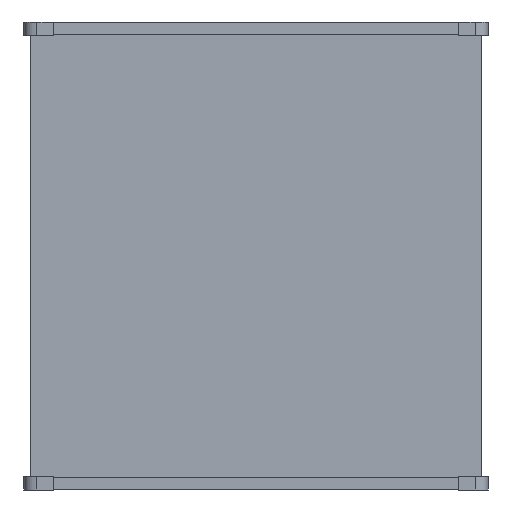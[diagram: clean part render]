
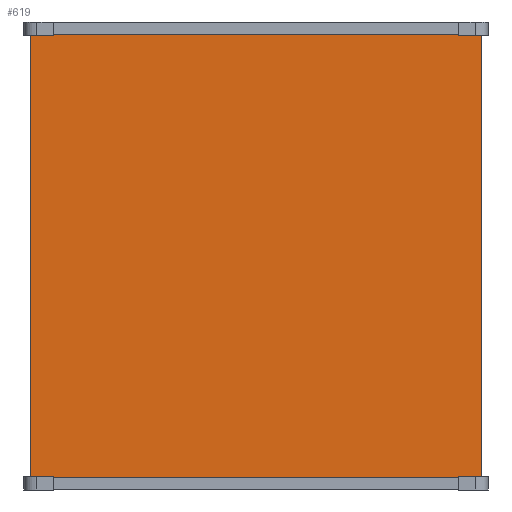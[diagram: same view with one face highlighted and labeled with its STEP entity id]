
A CAD part, front view. The second image highlights one B-rep face of the part: STEP entity #619.
In plain terms, the highlighted planar face has unit normal (0, -1, 0).
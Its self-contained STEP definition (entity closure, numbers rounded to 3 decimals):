
#619=ADVANCED_FACE('',(#1328),#1329,.F.);
#1328=FACE_OUTER_BOUND('',#2131,.T.);
#1329=PLANE('',#2132);
#2131=EDGE_LOOP('',(#4064,#4065,#4066,#4067,#4068,#4069,#4070,#4071,#4072,#4073,#4074,#4075));
#2132=AXIS2_PLACEMENT_3D('',#4076,#4077,#4078);
#4064=ORIENTED_EDGE('',*,*,#5642,.T.);
#4065=ORIENTED_EDGE('',*,*,#5615,.T.);
#4066=ORIENTED_EDGE('',*,*,#5669,.T.);
#4067=ORIENTED_EDGE('',*,*,#5670,.T.);
#4068=ORIENTED_EDGE('',*,*,#5671,.T.);
#4069=ORIENTED_EDGE('',*,*,#5672,.T.);
#4070=ORIENTED_EDGE('',*,*,#5673,.T.);
#4071=ORIENTED_EDGE('',*,*,#5674,.T.);
#4072=ORIENTED_EDGE('',*,*,#5675,.F.);
#4073=ORIENTED_EDGE('',*,*,#5676,.T.);
#4074=ORIENTED_EDGE('',*,*,#5677,.T.);
#4075=ORIENTED_EDGE('',*,*,#5666,.T.);
#4076=CARTESIAN_POINT('',(0.,-154.96,-322.5));
#4077=DIRECTION('',(0.,1.0,0.0));
#4078=DIRECTION('',(0.,0.,1.0));
#5615=EDGE_CURVE('',#6999,#7000,#7001,.T.);
#5642=EDGE_CURVE('',#7039,#6999,#7040,.T.);
#5666=EDGE_CURVE('',#7075,#7039,#7076,.T.);
#5669=EDGE_CURVE('',#7000,#7079,#7080,.T.);
#5670=EDGE_CURVE('',#7079,#7081,#7082,.T.);
#5671=EDGE_CURVE('',#7081,#7083,#7084,.T.);
#5672=EDGE_CURVE('',#7083,#7085,#7086,.T.);
#5673=EDGE_CURVE('',#7085,#7087,#7088,.T.);
#5674=EDGE_CURVE('',#7087,#7089,#7090,.T.);
#5675=EDGE_CURVE('',#7091,#7089,#7092,.T.);
#5676=EDGE_CURVE('',#7091,#7093,#7094,.T.);
#5677=EDGE_CURVE('',#7093,#7075,#7095,.T.);
#6999=VERTEX_POINT('',#8749);
#7000=VERTEX_POINT('',#8750);
#7001=LINE('',#8751,#8752);
#7039=VERTEX_POINT('',#8804);
#7040=LINE('',#8805,#8806);
#7075=VERTEX_POINT('',#8858);
#7076=LINE('',#8859,#8860);
#7079=VERTEX_POINT('',#8864);
#7080=LINE('',#8865,#8866);
#7081=VERTEX_POINT('',#8867);
#7082=LINE('',#8868,#8869);
#7083=VERTEX_POINT('',#8870);
#7084=LINE('',#8871,#8872);
#7085=VERTEX_POINT('',#8873);
#7086=LINE('',#8874,#8875);
#7087=VERTEX_POINT('',#8876);
#7088=LINE('',#8877,#8878);
#7089=VERTEX_POINT('',#8879);
#7090=LINE('',#8880,#8881);
#7091=VERTEX_POINT('',#8882);
#7092=LINE('',#8883,#8884);
#7093=VERTEX_POINT('',#8885);
#7094=LINE('',#8886,#8887);
#7095=LINE('',#8888,#8889);
#8749=CARTESIAN_POINT('',(280.0,-154.96,-627.875));
#8750=CARTESIAN_POINT('',(312.0,-154.96,-627.875));
#8751=CARTESIAN_POINT('',(150.25,-154.96,-627.875));
#8752=VECTOR('',#10479,1.0);
#8804=CARTESIAN_POINT('',(280.0,-154.96,-628.875));
#8805=CARTESIAN_POINT('',(280.0,-154.96,-479.719));
#8806=VECTOR('',#10512,1.0);
#8858=CARTESIAN_POINT('',(-280.0,-154.96,-628.875));
#8859=CARTESIAN_POINT('',(0.,-154.96,-628.875));
#8860=VECTOR('',#10530,1.0);
#8864=CARTESIAN_POINT('',(312.0,-154.96,-17.125));
#8865=CARTESIAN_POINT('',(312.0,-154.96,-322.5));
#8866=VECTOR('',#10532,1.0);
#8867=CARTESIAN_POINT('',(280.0,-154.96,-17.125));
#8868=CARTESIAN_POINT('',(150.25,-154.96,-17.125));
#8869=VECTOR('',#10533,1.0);
#8870=CARTESIAN_POINT('',(280.0,-154.96,-16.125));
#8871=CARTESIAN_POINT('',(280.0,-154.96,-165.281));
#8872=VECTOR('',#10534,1.0);
#8873=CARTESIAN_POINT('',(-280.0,-154.96,-16.125));
#8874=CARTESIAN_POINT('',(0.,-154.96,-16.125));
#8875=VECTOR('',#10535,1.0);
#8876=CARTESIAN_POINT('',(-280.0,-154.96,-17.125));
#8877=CARTESIAN_POINT('',(-280.0,-154.96,-165.281));
#8878=VECTOR('',#10536,1.0);
#8879=CARTESIAN_POINT('',(-312.0,-154.96,-17.125));
#8880=CARTESIAN_POINT('',(-150.25,-154.96,-17.125));
#8881=VECTOR('',#10537,1.0);
#8882=CARTESIAN_POINT('',(-312.0,-154.96,-627.875));
#8883=CARTESIAN_POINT('',(-312.0,-154.96,-322.5));
#8884=VECTOR('',#10538,1.0);
#8885=CARTESIAN_POINT('',(-280.0,-154.96,-627.875));
#8886=CARTESIAN_POINT('',(-150.25,-154.96,-627.875));
#8887=VECTOR('',#10539,1.0);
#8888=CARTESIAN_POINT('',(-280.0,-154.96,-479.719));
#8889=VECTOR('',#10540,1.0);
#10479=DIRECTION('',(1.0,0.,0.0));
#10512=DIRECTION('',(0.0,0.0,1.0));
#10530=DIRECTION('',(1.0,0.,0.));
#10532=DIRECTION('',(0.,0.,1.0));
#10533=DIRECTION('',(-1.0,0.,0.0));
#10534=DIRECTION('',(0.0,0.0,1.0));
#10535=DIRECTION('',(-1.0,0.,0.));
#10536=DIRECTION('',(0.,0.,-1.0));
#10537=DIRECTION('',(-1.0,0.,0.));
#10538=DIRECTION('',(0.,0.,1.0));
#10539=DIRECTION('',(1.0,0.,0.));
#10540=DIRECTION('',(0.,0.,-1.0));
